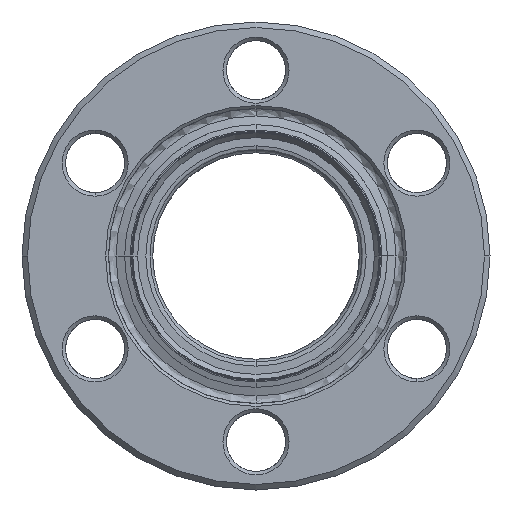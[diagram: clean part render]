
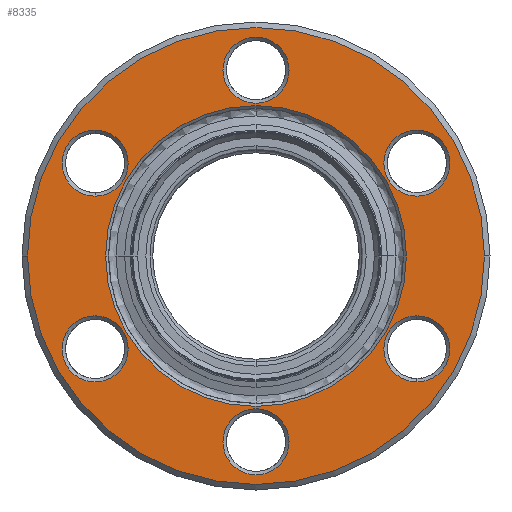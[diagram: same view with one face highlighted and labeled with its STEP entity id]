
A CAD part, left-side view. The second image highlights one B-rep face of the part: STEP entity #8335.
In plain terms, the highlighted planar face has unit normal (-1, 0, 0).
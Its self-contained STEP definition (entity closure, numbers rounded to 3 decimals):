
#1972=CARTESIAN_POINT('',(-994.2,10.925,0.));
#1973=VERTEX_POINT('',#1972);
#1989=CARTESIAN_POINT('',(-994.2,-10.925,0.));
#1990=VERTEX_POINT('',#1989);
#1997=CARTESIAN_POINT('',(-994.2,0.,0.));
#1998=DIRECTION('',(-1.0,0.0,0.0));
#1999=DIRECTION('',(0.0,1.0,0.0));
#2000=AXIS2_PLACEMENT_3D('',#1997,#1998,#1999);
#2001=CIRCLE('',#2000,10.925);
#2002=EDGE_CURVE('',#1990,#1973,#2001,.T.);
#2092=CARTESIAN_POINT('',(-994.2,-16.6,0.));
#2093=VERTEX_POINT('',#2092);
#2107=CARTESIAN_POINT('',(-994.2,16.6,0.));
#2108=VERTEX_POINT('',#2107);
#2115=CARTESIAN_POINT('',(-994.2,0.,0.));
#2116=DIRECTION('',(1.0,0.0,0.0));
#2117=DIRECTION('',(0.0,-1.0,0.0));
#2118=AXIS2_PLACEMENT_3D('',#2115,#2116,#2117);
#2119=CIRCLE('',#2118,16.6);
#2120=EDGE_CURVE('',#2108,#2093,#2119,.T.);
#2132=CARTESIAN_POINT('',(-994.2,11.691,4.35));
#2133=VERTEX_POINT('',#2132);
#2149=CARTESIAN_POINT('',(-994.2,11.691,9.15));
#2150=VERTEX_POINT('',#2149);
#2157=CARTESIAN_POINT('',(-994.2,11.691,6.75));
#2158=DIRECTION('',(-1.0,0.0,0.0));
#2159=DIRECTION('',(0.0,0.0,-1.0));
#2160=AXIS2_PLACEMENT_3D('',#2157,#2158,#2159);
#2161=CIRCLE('',#2160,2.4);
#2162=EDGE_CURVE('',#2150,#2133,#2161,.T.);
#2271=CARTESIAN_POINT('',(-994.2,9.613,-7.95));
#2272=VERTEX_POINT('',#2271);
#2288=CARTESIAN_POINT('',(-994.2,13.77,-5.55));
#2289=VERTEX_POINT('',#2288);
#2296=CARTESIAN_POINT('',(-994.2,11.691,-6.75));
#2297=DIRECTION('',(-1.0,0.,0.));
#2298=DIRECTION('',(0.,-0.866,-0.5));
#2299=AXIS2_PLACEMENT_3D('',#2296,#2297,#2298);
#2300=CIRCLE('',#2299,2.4);
#2301=EDGE_CURVE('',#2289,#2272,#2300,.T.);
#2410=CARTESIAN_POINT('',(-994.2,-2.078,-12.3));
#2411=VERTEX_POINT('',#2410);
#2427=CARTESIAN_POINT('',(-994.2,2.078,-14.7));
#2428=VERTEX_POINT('',#2427);
#2435=CARTESIAN_POINT('',(-994.2,0.,-13.5));
#2436=DIRECTION('',(-1.0,0.,0.));
#2437=DIRECTION('',(0.,-0.866,0.5));
#2438=AXIS2_PLACEMENT_3D('',#2435,#2436,#2437);
#2439=CIRCLE('',#2438,2.4);
#2440=EDGE_CURVE('',#2428,#2411,#2439,.T.);
#2549=CARTESIAN_POINT('',(-994.2,-11.691,-4.35));
#2550=VERTEX_POINT('',#2549);
#2566=CARTESIAN_POINT('',(-994.2,-11.691,-9.15));
#2567=VERTEX_POINT('',#2566);
#2574=CARTESIAN_POINT('',(-994.2,-11.691,-6.75));
#2575=DIRECTION('',(-1.0,0.0,0.0));
#2576=DIRECTION('',(0.0,0.0,1.0));
#2577=AXIS2_PLACEMENT_3D('',#2574,#2575,#2576);
#2578=CIRCLE('',#2577,2.4);
#2579=EDGE_CURVE('',#2567,#2550,#2578,.T.);
#2688=CARTESIAN_POINT('',(-994.2,-9.613,7.95));
#2689=VERTEX_POINT('',#2688);
#2705=CARTESIAN_POINT('',(-994.2,-13.77,5.55));
#2706=VERTEX_POINT('',#2705);
#2713=CARTESIAN_POINT('',(-994.2,-11.691,6.75));
#2714=DIRECTION('',(-1.0,0.,0.));
#2715=DIRECTION('',(0.,0.866,0.5));
#2716=AXIS2_PLACEMENT_3D('',#2713,#2714,#2715);
#2717=CIRCLE('',#2716,2.4);
#2718=EDGE_CURVE('',#2706,#2689,#2717,.T.);
#2827=CARTESIAN_POINT('',(-994.2,2.078,12.3));
#2828=VERTEX_POINT('',#2827);
#2844=CARTESIAN_POINT('',(-994.2,-2.078,14.7));
#2845=VERTEX_POINT('',#2844);
#2852=CARTESIAN_POINT('',(-994.2,0.,13.5));
#2853=DIRECTION('',(-1.0,0.,0.));
#2854=DIRECTION('',(0.,0.866,-0.5));
#2855=AXIS2_PLACEMENT_3D('',#2852,#2853,#2854);
#2856=CIRCLE('',#2855,2.4);
#2857=EDGE_CURVE('',#2845,#2828,#2856,.T.);
#8244=CARTESIAN_POINT('',(-994.2,0.,13.5));
#8245=DIRECTION('',(-1.0,0.,0.));
#8246=DIRECTION('',(0.,0.866,-0.5));
#8247=AXIS2_PLACEMENT_3D('',#8244,#8245,#8246);
#8248=CIRCLE('',#8247,2.4);
#8249=EDGE_CURVE('',#2828,#2845,#8248,.T.);
#8256=CARTESIAN_POINT('',(-994.2,13.962,0.));
#8257=DIRECTION('',(-1.0,0.0,0.0));
#8258=DIRECTION('',(0.0,0.0,1.0));
#8259=AXIS2_PLACEMENT_3D('',#8256,#8257,#8258);
#8260=PLANE('',#8259);
#8261=ORIENTED_EDGE('',*,*,#2120,.F.);
#8262=CARTESIAN_POINT('',(-994.2,0.,0.));
#8263=DIRECTION('',(1.0,0.0,0.0));
#8264=DIRECTION('',(0.0,-1.0,0.0));
#8265=AXIS2_PLACEMENT_3D('',#8262,#8263,#8264);
#8266=CIRCLE('',#8265,16.6);
#8267=EDGE_CURVE('',#2093,#2108,#8266,.T.);
#8268=ORIENTED_EDGE('',*,*,#8267,.F.);
#8269=EDGE_LOOP('',(#8261,#8268));
#8270=FACE_OUTER_BOUND('',#8269,.T.);
#8271=CARTESIAN_POINT('',(-994.2,0.,0.));
#8272=DIRECTION('',(-1.0,0.0,0.0));
#8273=DIRECTION('',(0.0,1.0,0.0));
#8274=AXIS2_PLACEMENT_3D('',#8271,#8272,#8273);
#8275=CIRCLE('',#8274,10.925);
#8276=EDGE_CURVE('',#1973,#1990,#8275,.T.);
#8277=ORIENTED_EDGE('',*,*,#8276,.F.);
#8278=ORIENTED_EDGE('',*,*,#2002,.F.);
#8279=EDGE_LOOP('',(#8277,#8278));
#8280=FACE_BOUND('',#8279,.T.);
#8281=ORIENTED_EDGE('',*,*,#2718,.F.);
#8282=CARTESIAN_POINT('',(-994.2,-11.691,6.75));
#8283=DIRECTION('',(-1.0,0.,0.));
#8284=DIRECTION('',(0.,0.866,0.5));
#8285=AXIS2_PLACEMENT_3D('',#8282,#8283,#8284);
#8286=CIRCLE('',#8285,2.4);
#8287=EDGE_CURVE('',#2689,#2706,#8286,.T.);
#8288=ORIENTED_EDGE('',*,*,#8287,.F.);
#8289=EDGE_LOOP('',(#8281,#8288));
#8290=FACE_BOUND('',#8289,.T.);
#8291=ORIENTED_EDGE('',*,*,#2440,.F.);
#8292=CARTESIAN_POINT('',(-994.2,0.,-13.5));
#8293=DIRECTION('',(-1.0,0.,0.));
#8294=DIRECTION('',(0.,-0.866,0.5));
#8295=AXIS2_PLACEMENT_3D('',#8292,#8293,#8294);
#8296=CIRCLE('',#8295,2.4);
#8297=EDGE_CURVE('',#2411,#2428,#8296,.T.);
#8298=ORIENTED_EDGE('',*,*,#8297,.F.);
#8299=EDGE_LOOP('',(#8291,#8298));
#8300=FACE_BOUND('',#8299,.T.);
#8301=ORIENTED_EDGE('',*,*,#2162,.F.);
#8302=CARTESIAN_POINT('',(-994.2,11.691,6.75));
#8303=DIRECTION('',(-1.0,0.0,0.0));
#8304=DIRECTION('',(0.0,0.0,-1.0));
#8305=AXIS2_PLACEMENT_3D('',#8302,#8303,#8304);
#8306=CIRCLE('',#8305,2.4);
#8307=EDGE_CURVE('',#2133,#2150,#8306,.T.);
#8308=ORIENTED_EDGE('',*,*,#8307,.F.);
#8309=EDGE_LOOP('',(#8301,#8308));
#8310=FACE_BOUND('',#8309,.T.);
#8311=ORIENTED_EDGE('',*,*,#2301,.F.);
#8312=CARTESIAN_POINT('',(-994.2,11.691,-6.75));
#8313=DIRECTION('',(-1.0,0.,0.));
#8314=DIRECTION('',(0.,-0.866,-0.5));
#8315=AXIS2_PLACEMENT_3D('',#8312,#8313,#8314);
#8316=CIRCLE('',#8315,2.4);
#8317=EDGE_CURVE('',#2272,#2289,#8316,.T.);
#8318=ORIENTED_EDGE('',*,*,#8317,.F.);
#8319=EDGE_LOOP('',(#8311,#8318));
#8320=FACE_BOUND('',#8319,.T.);
#8321=ORIENTED_EDGE('',*,*,#2579,.F.);
#8322=CARTESIAN_POINT('',(-994.2,-11.691,-6.75));
#8323=DIRECTION('',(-1.0,0.0,0.0));
#8324=DIRECTION('',(0.0,0.0,1.0));
#8325=AXIS2_PLACEMENT_3D('',#8322,#8323,#8324);
#8326=CIRCLE('',#8325,2.4);
#8327=EDGE_CURVE('',#2550,#2567,#8326,.T.);
#8328=ORIENTED_EDGE('',*,*,#8327,.F.);
#8329=EDGE_LOOP('',(#8321,#8328));
#8330=FACE_BOUND('',#8329,.T.);
#8331=ORIENTED_EDGE('',*,*,#2857,.F.);
#8332=ORIENTED_EDGE('',*,*,#8249,.F.);
#8333=EDGE_LOOP('',(#8331,#8332));
#8334=FACE_BOUND('',#8333,.T.);
#8335=ADVANCED_FACE('',(#8270,#8280,#8290,#8300,#8310,#8320,#8330,#8334),#8260,.T.);
